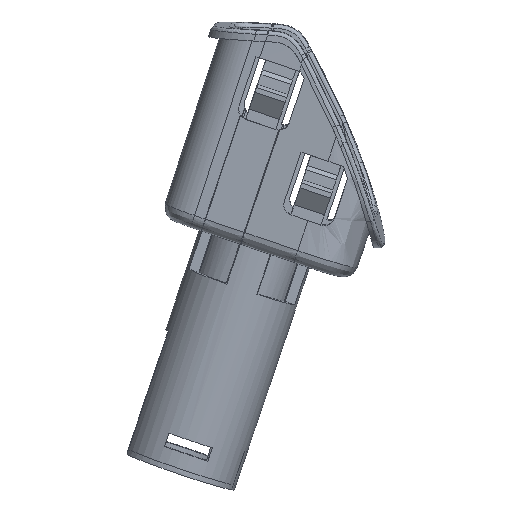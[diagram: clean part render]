
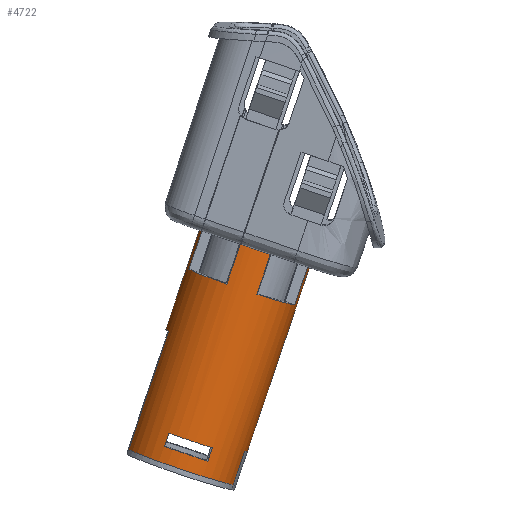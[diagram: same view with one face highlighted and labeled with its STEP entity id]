
A CAD part, left-side view. The second image highlights one B-rep face of the part: STEP entity #4722.
In plain terms, the highlighted cylindrical face has radius 11 mm (diameter 22 mm), a partial arc.
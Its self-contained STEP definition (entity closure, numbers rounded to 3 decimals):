
#3159=VECTOR('Line Direction',#3158,1.) ;
#3195=VECTOR('Line Direction',#3194,1.) ;
#4603=VECTOR('Line Direction',#4602,1.) ;
#4617=VECTOR('Line Direction',#4616,1.) ;
#4631=VECTOR('Line Direction',#4630,1.) ;
#4699=VECTOR('Line Direction',#4698,1.) ;
#4713=VECTOR('Line Direction',#4712,1.) ;
#3158=DIRECTION('Vector Direction',(0.05,0.32,-0.946)) ;
#3194=DIRECTION('Vector Direction',(0.05,0.32,-0.946)) ;
#4583=DIRECTION('Axis2P3D Direction',(0.05,0.32,-0.946)) ;
#4584=DIRECTION('Axis2P3D XDirection',(0.017,-0.947,-0.32)) ;
#4588=DIRECTION('Axis2P3D Direction',(0.05,0.32,-0.946)) ;
#4595=DIRECTION('Axis2P3D Direction',(0.05,0.32,-0.946)) ;
#4602=DIRECTION('Vector Direction',(0.05,0.32,-0.946)) ;
#4609=DIRECTION('Axis2P3D Direction',(0.05,0.32,-0.946)) ;
#4616=DIRECTION('Vector Direction',(0.05,0.32,-0.946)) ;
#4623=DIRECTION('Axis2P3D Direction',(0.05,0.32,-0.946)) ;
#4630=DIRECTION('Vector Direction',(0.05,0.32,-0.946)) ;
#4641=DIRECTION('Axis2P3D Direction',(0.05,0.32,-0.946)) ;
#4658=DIRECTION('Axis2P3D Direction',(0.05,0.32,-0.946)) ;
#4689=DIRECTION('Axis2P3D Direction',(0.05,0.32,-0.946)) ;
#4698=DIRECTION('Vector Direction',(0.05,0.32,-0.946)) ;
#4705=DIRECTION('Axis2P3D Direction',(0.05,0.32,-0.946)) ;
#4712=DIRECTION('Vector Direction',(0.05,0.32,-0.946)) ;
#712=CARTESIAN_POINT('Vertex',(-386.523,-970.122,481.76)) ;
#815=CARTESIAN_POINT('Vertex',(-386.891,-949.279,488.791)) ;
#920=CARTESIAN_POINT('Control Point',(-389.882,-949.682,488.526)) ;
#921=CARTESIAN_POINT('Control Point',(-388.913,-949.418,488.657)) ;
#922=CARTESIAN_POINT('Control Point',(-387.904,-949.282,488.747)) ;
#923=CARTESIAN_POINT('Control Point',(-386.892,-949.279,488.791)) ;
#924=CARTESIAN_POINT('Vertex',(-389.882,-949.682,488.526)) ;
#963=CARTESIAN_POINT('Vertex',(-397.33,-956.888,485.767)) ;
#967=CARTESIAN_POINT('Control Point',(-397.23,-962.572,483.85)) ;
#968=CARTESIAN_POINT('Control Point',(-397.668,-961.188,484.298)) ;
#969=CARTESIAN_POINT('Control Point',(-397.839,-959.731,484.784)) ;
#970=CARTESIAN_POINT('Control Point',(-397.72,-958.274,485.282)) ;
#971=CARTESIAN_POINT('Control Point',(-397.33,-956.888,485.767)) ;
#972=CARTESIAN_POINT('Vertex',(-397.23,-962.572,483.85)) ;
#1011=CARTESIAN_POINT('Vertex',(-389.527,-969.735,481.76)) ;
#1015=CARTESIAN_POINT('Control Point',(-386.523,-970.122,481.76)) ;
#1016=CARTESIAN_POINT('Control Point',(-387.535,-970.124,481.715)) ;
#1017=CARTESIAN_POINT('Control Point',(-388.549,-969.994,481.715)) ;
#1018=CARTESIAN_POINT('Control Point',(-389.527,-969.735,481.76)) ;
#3157=CARTESIAN_POINT('Line Origine',(-385.666,-964.6,465.439)) ;
#3161=CARTESIAN_POINT('Vertex',(-385.406,-962.92,460.472)) ;
#3190=CARTESIAN_POINT('Vertex',(-385.884,-942.782,469.586)) ;
#3193=CARTESIAN_POINT('Line Origine',(-386.035,-943.758,472.471)) ;
#4582=CARTESIAN_POINT('Axis2P3D Location',(-385.851,-954.179,468.955)) ;
#4587=CARTESIAN_POINT('Axis2P3D Location',(-385.699,-953.203,466.07)) ;
#4591=CARTESIAN_POINT('Vertex',(-387.131,-942.849,469.498)) ;
#4594=CARTESIAN_POINT('Axis2P3D Location',(-385.699,-953.203,466.07)) ;
#4598=CARTESIAN_POINT('Vertex',(-389.369,-943.323,469.22)) ;
#4601=CARTESIAN_POINT('Line Origine',(-389.521,-944.299,472.105)) ;
#4605=CARTESIAN_POINT('Vertex',(-388.193,-935.737,446.797)) ;
#4608=CARTESIAN_POINT('Axis2P3D Location',(-384.523,-945.617,443.647)) ;
#4612=CARTESIAN_POINT('Vertex',(-387.843,-955.497,440.131)) ;
#4615=CARTESIAN_POINT('Line Origine',(-389.171,-964.059,465.439)) ;
#4619=CARTESIAN_POINT('Vertex',(-388.179,-957.657,446.517)) ;
#4622=CARTESIAN_POINT('Axis2P3D Location',(-384.858,-947.778,450.034)) ;
#4626=CARTESIAN_POINT('Vertex',(-384.674,-958.199,446.518)) ;
#4629=CARTESIAN_POINT('Line Origine',(-385.666,-964.6,465.439)) ;
#4635=CARTESIAN_POINT('Control Point',(-389.128,-967.166,474.167)) ;
#4636=CARTESIAN_POINT('Control Point',(-389.527,-969.735,481.76)) ;
#4637=CARTESIAN_POINT('Vertex',(-389.128,-967.166,474.167)) ;
#4640=CARTESIAN_POINT('Axis2P3D Location',(-386.31,-957.14,477.707)) ;
#4644=CARTESIAN_POINT('Vertex',(-396.828,-959.982,476.193)) ;
#4648=CARTESIAN_POINT('Control Point',(-396.828,-959.982,476.193)) ;
#4649=CARTESIAN_POINT('Control Point',(-397.23,-962.572,483.85)) ;
#4652=CARTESIAN_POINT('Control Point',(-396.929,-954.298,478.111)) ;
#4653=CARTESIAN_POINT('Control Point',(-397.33,-956.888,485.767)) ;
#4654=CARTESIAN_POINT('Vertex',(-396.929,-954.298,478.111)) ;
#4657=CARTESIAN_POINT('Axis2P3D Location',(-386.31,-957.14,477.707)) ;
#4661=CARTESIAN_POINT('Vertex',(-389.483,-947.113,480.932)) ;
#4665=CARTESIAN_POINT('Control Point',(-389.483,-947.113,480.932)) ;
#4666=CARTESIAN_POINT('Control Point',(-389.882,-949.682,488.526)) ;
#4688=CARTESIAN_POINT('Axis2P3D Location',(-384.674,-946.593,446.533)) ;
#4692=CARTESIAN_POINT('Vertex',(-394.691,-950.714,444.613)) ;
#4694=CARTESIAN_POINT('Vertex',(-394.837,-942.472,447.394)) ;
#4697=CARTESIAN_POINT('Line Origine',(-396.013,-950.058,469.817)) ;
#4701=CARTESIAN_POINT('Vertex',(-394.968,-943.32,449.901)) ;
#4704=CARTESIAN_POINT('Axis2P3D Location',(-384.806,-947.442,449.04)) ;
#4708=CARTESIAN_POINT('Vertex',(-394.823,-951.563,447.12)) ;
#4711=CARTESIAN_POINT('Line Origine',(-395.867,-958.3,467.036)) ;
#4585=AXIS2_PLACEMENT_3D('Cylinder Axis2P3D',#4582,#4583,#4584) ;
#4589=AXIS2_PLACEMENT_3D('Circle Axis2P3D',#4587,#4588,$) ;
#4596=AXIS2_PLACEMENT_3D('Circle Axis2P3D',#4594,#4595,$) ;
#4610=AXIS2_PLACEMENT_3D('Circle Axis2P3D',#4608,#4609,$) ;
#4624=AXIS2_PLACEMENT_3D('Circle Axis2P3D',#4622,#4623,$) ;
#4642=AXIS2_PLACEMENT_3D('Circle Axis2P3D',#4640,#4641,$) ;
#4659=AXIS2_PLACEMENT_3D('Circle Axis2P3D',#4657,#4658,$) ;
#4690=AXIS2_PLACEMENT_3D('Circle Axis2P3D',#4688,#4689,$) ;
#4706=AXIS2_PLACEMENT_3D('Circle Axis2P3D',#4704,#4705,$) ;
#4721=FACE_BOUND('',#4716,.T.) ;
#926=EDGE_CURVE('',#925,#816,#919,.T.) ;
#974=EDGE_CURVE('',#973,#964,#966,.T.) ;
#1019=EDGE_CURVE('',#713,#1012,#1014,.T.) ;
#3163=EDGE_CURVE('',#3162,#713,#3160,.F.) ;
#3197=EDGE_CURVE('',#3191,#816,#3196,.F.) ;
#4593=EDGE_CURVE('',#4592,#3191,#4590,.T.) ;
#4600=EDGE_CURVE('',#4592,#4599,#4597,.F.) ;
#4607=EDGE_CURVE('',#4606,#4599,#4604,.F.) ;
#4614=EDGE_CURVE('',#4606,#4613,#4611,.F.) ;
#4621=EDGE_CURVE('',#4620,#4613,#4618,.T.) ;
#4628=EDGE_CURVE('',#4627,#4620,#4625,.T.) ;
#4633=EDGE_CURVE('',#3162,#4627,#4632,.T.) ;
#4639=EDGE_CURVE('',#4638,#1012,#4634,.T.) ;
#4646=EDGE_CURVE('',#4645,#4638,#4643,.F.) ;
#4650=EDGE_CURVE('',#973,#4645,#4647,.F.) ;
#4656=EDGE_CURVE('',#4655,#964,#4651,.T.) ;
#4663=EDGE_CURVE('',#4662,#4655,#4660,.F.) ;
#4667=EDGE_CURVE('',#925,#4662,#4664,.F.) ;
#4696=EDGE_CURVE('',#4693,#4695,#4691,.T.) ;
#4703=EDGE_CURVE('',#4702,#4695,#4700,.T.) ;
#4710=EDGE_CURVE('',#4709,#4702,#4707,.T.) ;
#4715=EDGE_CURVE('',#4693,#4709,#4714,.F.) ;
#4669=ORIENTED_EDGE('',*,*,#3197,.F.) ;
#4670=ORIENTED_EDGE('',*,*,#4593,.F.) ;
#4671=ORIENTED_EDGE('',*,*,#4600,.T.) ;
#4672=ORIENTED_EDGE('',*,*,#4607,.F.) ;
#4673=ORIENTED_EDGE('',*,*,#4614,.T.) ;
#4674=ORIENTED_EDGE('',*,*,#4621,.F.) ;
#4675=ORIENTED_EDGE('',*,*,#4628,.F.) ;
#4676=ORIENTED_EDGE('',*,*,#4633,.F.) ;
#4677=ORIENTED_EDGE('',*,*,#3163,.T.) ;
#4678=ORIENTED_EDGE('',*,*,#1019,.T.) ;
#4679=ORIENTED_EDGE('',*,*,#4639,.F.) ;
#4680=ORIENTED_EDGE('',*,*,#4646,.F.) ;
#4681=ORIENTED_EDGE('',*,*,#4650,.F.) ;
#4682=ORIENTED_EDGE('',*,*,#974,.T.) ;
#4683=ORIENTED_EDGE('',*,*,#4656,.F.) ;
#4684=ORIENTED_EDGE('',*,*,#4663,.F.) ;
#4685=ORIENTED_EDGE('',*,*,#4667,.F.) ;
#4686=ORIENTED_EDGE('',*,*,#926,.T.) ;
#4717=ORIENTED_EDGE('',*,*,#4696,.T.) ;
#4718=ORIENTED_EDGE('',*,*,#4703,.F.) ;
#4719=ORIENTED_EDGE('',*,*,#4710,.F.) ;
#4720=ORIENTED_EDGE('',*,*,#4715,.F.) ;
#3160=LINE('Line',#3157,#3159) ;
#3196=LINE('Line',#3193,#3195) ;
#4604=LINE('Line',#4601,#4603) ;
#4618=LINE('Line',#4615,#4617) ;
#4632=LINE('Line',#4629,#4631) ;
#4700=LINE('Line',#4697,#4699) ;
#4714=LINE('Line',#4711,#4713) ;
#4722=ADVANCED_FACE('\X2\901F964D96005B8988C55E955EA7\X0\-2020.1015',(#4687,#4721),#4586,.T.) ;
#4590=CIRCLE('generated circle',#4589,11.) ;
#4597=CIRCLE('generated circle',#4596,11.) ;
#4611=CIRCLE('generated circle',#4610,11.) ;
#4625=CIRCLE('generated circle',#4624,11.) ;
#4643=CIRCLE('generated circle',#4642,11.) ;
#4660=CIRCLE('generated circle',#4659,11.) ;
#4691=CIRCLE('generated circle',#4690,11.) ;
#4707=CIRCLE('generated circle',#4706,11.) ;
#4586=CYLINDRICAL_SURFACE('generated cylinder',#4585,11.) ;
#713=VERTEX_POINT('',#712) ;
#816=VERTEX_POINT('',#815) ;
#925=VERTEX_POINT('',#924) ;
#964=VERTEX_POINT('',#963) ;
#973=VERTEX_POINT('',#972) ;
#1012=VERTEX_POINT('',#1011) ;
#3162=VERTEX_POINT('',#3161) ;
#3191=VERTEX_POINT('',#3190) ;
#4592=VERTEX_POINT('',#4591) ;
#4599=VERTEX_POINT('',#4598) ;
#4606=VERTEX_POINT('',#4605) ;
#4613=VERTEX_POINT('',#4612) ;
#4620=VERTEX_POINT('',#4619) ;
#4627=VERTEX_POINT('',#4626) ;
#4638=VERTEX_POINT('',#4637) ;
#4645=VERTEX_POINT('',#4644) ;
#4655=VERTEX_POINT('',#4654) ;
#4662=VERTEX_POINT('',#4661) ;
#4693=VERTEX_POINT('',#4692) ;
#4695=VERTEX_POINT('',#4694) ;
#4702=VERTEX_POINT('',#4701) ;
#4709=VERTEX_POINT('',#4708) ;
#919=B_SPLINE_CURVE_WITH_KNOTS('',3,(#920,#921,#922,#923),.UNSPECIFIED.,.F.,.U.,(4,4),(44.575,48.871),.UNSPECIFIED.) ;
#966=B_SPLINE_CURVE_WITH_KNOTS('',4,(#967,#968,#969,#970,#971),.UNSPECIFIED.,.F.,.U.,(5,5),(20.139,28.733),.UNSPECIFIED.) ;
#1014=B_SPLINE_CURVE_WITH_KNOTS('',3,(#1015,#1016,#1017,#1018),.UNSPECIFIED.,.F.,.U.,(4,4),(0.,4.297),.UNSPECIFIED.) ;
#4634=B_SPLINE_CURVE_WITH_KNOTS('',1,(#4635,#4636),.UNSPECIFIED.,.F.,.U.,(2,2),(-9.5,-1.474),.UNSPECIFIED.) ;
#4647=B_SPLINE_CURVE_WITH_KNOTS('',1,(#4648,#4649),.UNSPECIFIED.,.F.,.U.,(2,2),(-9.5,-1.408),.UNSPECIFIED.) ;
#4651=B_SPLINE_CURVE_WITH_KNOTS('',1,(#4652,#4653),.UNSPECIFIED.,.F.,.U.,(2,2),(-9.5,-1.408),.UNSPECIFIED.) ;
#4664=B_SPLINE_CURVE_WITH_KNOTS('',1,(#4665,#4666),.UNSPECIFIED.,.F.,.U.,(2,2),(-9.5,-1.474),.UNSPECIFIED.) ;
#4668=EDGE_LOOP('',(#4669,#4670,#4671,#4672,#4673,#4674,#4675,#4676,#4677,#4678,#4679,#4680,#4681,#4682,#4683,#4684,#4685,#4686)) ;
#4716=EDGE_LOOP('',(#4717,#4718,#4719,#4720)) ;
#4687=FACE_OUTER_BOUND('',#4668,.T.) ;
